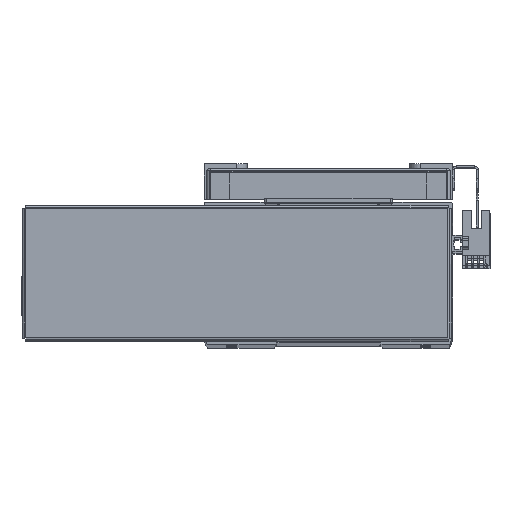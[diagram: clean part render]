
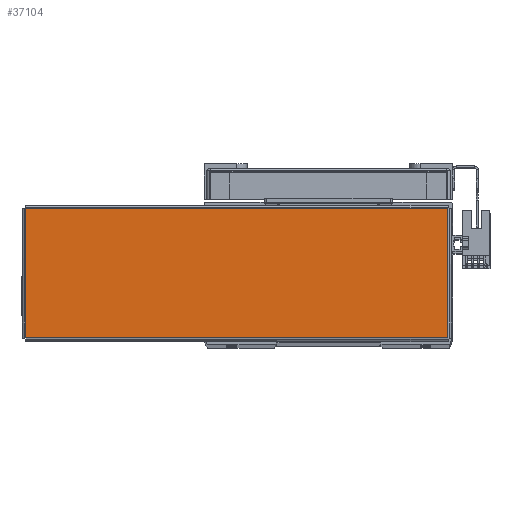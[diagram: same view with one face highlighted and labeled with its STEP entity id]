
A CAD part, top view. The second image highlights one B-rep face of the part: STEP entity #37104.
In plain terms, the highlighted planar face has unit normal (0, 0, 1) as drawn and (0, -1, 0) by its records, which use the part's own axes.
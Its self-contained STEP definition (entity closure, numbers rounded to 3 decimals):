
#679 = CARTESIAN_POINT ( 'NONE',  ( -103.763, -1., 31.793 ) ) ;
#714 = DIRECTION ( 'NONE',  ( 0., 0., -1. ) ) ;
#906 = DIRECTION ( 'NONE',  ( -1., 0., 0. ) ) ;
#930 = CARTESIAN_POINT ( 'NONE',  ( 103.793, -1., 31.763 ) ) ;
#968 = CARTESIAN_POINT ( 'NONE',  ( 103.763, -1., -31.793 ) ) ;
#976 = CARTESIAN_POINT ( 'NONE',  ( -103.793, -1., -31.763 ) ) ;
#981 = DIRECTION ( 'NONE',  ( 1., 0., 0. ) ) ;
#983 = DIRECTION ( 'NONE',  ( 0., 0., 1. ) ) ;
#12030 = VECTOR ( 'NONE', #714, 1000. ) ;
#12044 = LINE ( 'NONE', #679, #12030 ) ;
#13742 = EDGE_CURVE ( 'NONE', #58124, #58062, #12044, .T. ) ;
#13817 = EDGE_CURVE ( 'NONE', #58153, #58124, #51343, .T. ) ;
#13833 = EDGE_CURVE ( 'NONE', #58062, #58133, #51383, .T. ) ;
#13838 = EDGE_CURVE ( 'NONE', #58133, #58153, #51369, .T. ) ;
#28467 = EDGE_LOOP ( 'NONE', ( #48142, #48048, #48202, #48058 ) ) ;
#32770 = FACE_OUTER_BOUND ( 'NONE', #28467, .T. ) ;
#37104 = ADVANCED_FACE ( 'NONE', ( #32770 ), #42191, .F. ) ;
#40374 = AXIS2_PLACEMENT_3D ( 'NONE', #42199, #42202, #42206 ) ;
#42191 = PLANE ( 'NONE',  #40374 ) ;
#42199 = CARTESIAN_POINT ( 'NONE',  ( 0., -1., 0. ) ) ;
#42202 = DIRECTION ( 'NONE',  ( 0., 1., 0. ) ) ;
#42206 = DIRECTION ( 'NONE',  ( 0., 0., 1. ) ) ;
#48048 = ORIENTED_EDGE ( 'NONE', *, *, #13742, .T. ) ;
#48058 = ORIENTED_EDGE ( 'NONE', *, *, #13838, .T. ) ;
#48142 = ORIENTED_EDGE ( 'NONE', *, *, #13817, .T. ) ;
#48202 = ORIENTED_EDGE ( 'NONE', *, *, #13833, .T. ) ;
#51343 = LINE ( 'NONE', #930, #51373 ) ;
#51369 = LINE ( 'NONE', #968, #51379 ) ;
#51373 = VECTOR ( 'NONE', #906, 1000. ) ;
#51379 = VECTOR ( 'NONE', #983, 1000. ) ;
#51383 = LINE ( 'NONE', #976, #51394 ) ;
#51394 = VECTOR ( 'NONE', #981, 1000. ) ;
#52960 = CARTESIAN_POINT ( 'NONE',  ( -103.763, -1., -31.763 ) ) ;
#53084 = CARTESIAN_POINT ( 'NONE',  ( 103.763, -1., 31.763 ) ) ;
#53100 = CARTESIAN_POINT ( 'NONE',  ( -103.763, -1., 31.763 ) ) ;
#53114 = CARTESIAN_POINT ( 'NONE',  ( 103.763, -1., -31.763 ) ) ;
#58062 = VERTEX_POINT ( 'NONE', #52960 ) ;
#58124 = VERTEX_POINT ( 'NONE', #53100 ) ;
#58133 = VERTEX_POINT ( 'NONE', #53114 ) ;
#58153 = VERTEX_POINT ( 'NONE', #53084 ) ;
